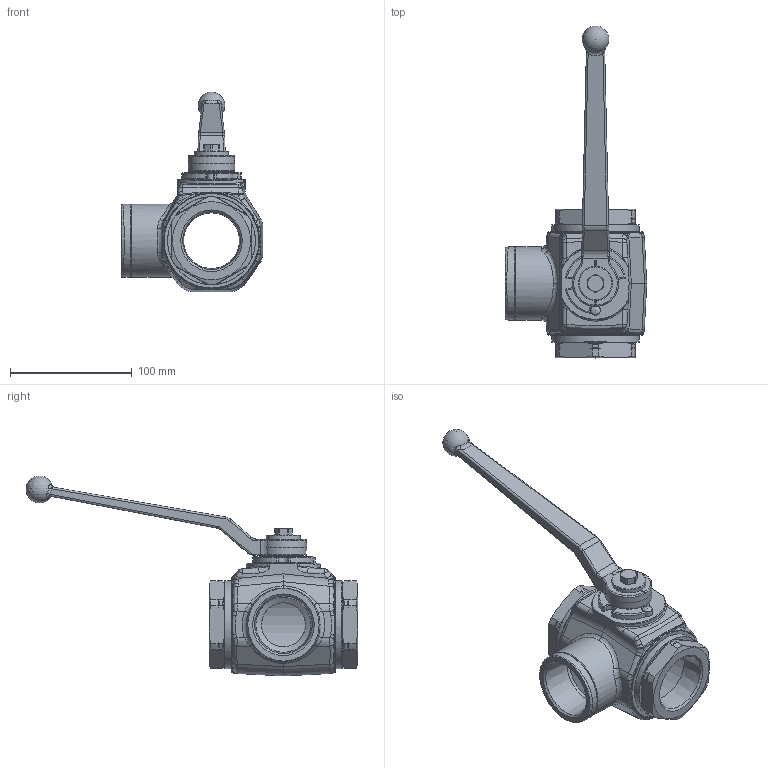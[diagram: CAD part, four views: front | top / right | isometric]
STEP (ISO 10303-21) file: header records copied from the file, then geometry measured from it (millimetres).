
FILE_DESCRIPTION( ( 'Unknown' ), '1' );
FILE_NAME( 'H:/PISTER/3D-MODELLE/SK3 stp/SK3 DN40 3_2 NPT.stp', 'Unknown', ( 'Unknown' ), ( 'Unknown' ), 'PSStep 14.0', 'Unknown', ' ' );
FILE_SCHEMA( ( 'AUTOMOTIVE_DESIGN { 1 0 10303 214 1 1 1 1 }' ) );
Length unit declared in the file: millimetre
Products named in the file (10): Assem1; 56-032-048-oa9; 09-17-001; Griff_SW17_; 58-0440-003; 58-0933-163; 04-040-095-oa10; 04-040-095-oa11; 58-28740-01; 01-040-099-oa12
Assembly tree (9 placements, depth 2):
  Assem1
    56-032-048-oa9
    09-17-001
    Griff_SW17_
    58-0440-003
    58-0933-163
    04-040-095-oa10
    04-040-095-oa11
    58-28740-01
    01-040-099-oa12
Bounding box: 116 x 271.92 x 163.9 mm (x, y, z)
Volume: 272449.2 mm3; surface area: 110513 mm2
Topology: 9 solids, 9 shells, 570 faces, 1439 edges, 876 vertices
Faces by surface type: cylinder 157, plane 137, bspline 128, cone 80, torus 57, sphere 11
Full cylindrical faces by diameter (mm): 6.8 x1, 7.98 x1, 8 x1, 9.2 x1, 24 x2, 28 x1, 32 x1, 36 x1, 45.207 x1, 52 x1, 60 x2, 65.3 x4, 72 x2, 78.279 x1
Entity records: 30143 total; most frequent: CARTESIAN_POINT 13150, ORIENTED_EDGE 2690, DIRECTION 2360, EDGE_CURVE 1345, AXIS2_PLACEMENT_3D 997, VERTEX_POINT 850, EDGE_LOOP 644, FACE_OUTER_BOUND 601
